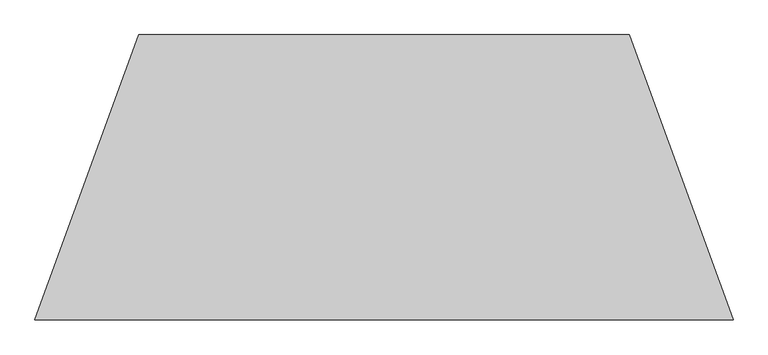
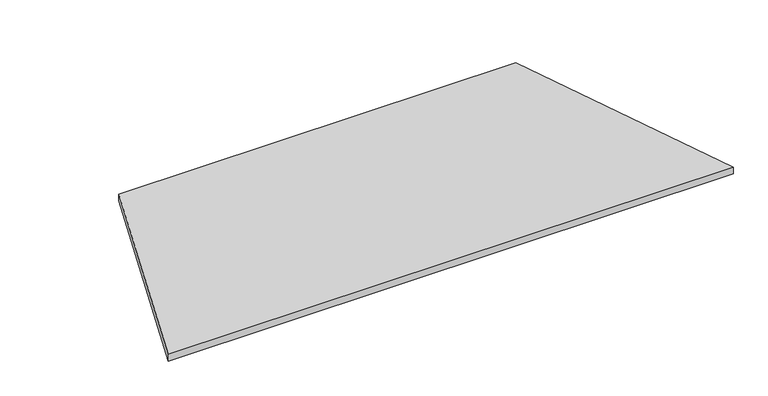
"""IFC4 building model written with IfcOpenShell, lengths in millimetres: proxy geometry, DATUM^OFFICE 2_DESK-ACRYLIC."""

from ifc_helpers import new_model, si_unit, origin, origin_with_axes, place, context, project, spatial, polyline, outline, extrude, source, transform, mapped, element, save


def generic_models_ab67c345(model_context):
    return source(origin(), model_context, "Body", "SweptSolid", [
        extrude(outline(polyline([(1122.1291385, 266.7), (97.0708615, 266.7), (249.6107867, 685.8), (969.5892133, 685.8), (1122.1291385, 266.7)])), origin_with_axes(), (0.0, 0.0, 1.0), 12.7),
    ])


if __name__ == "__main__":
    model = new_model("IFC4")
    model_context = context("Model", 3, world=origin())
    ifc_project = project(units=[si_unit("LENGTHUNIT", "METRE", prefix="MILLI")], contexts=[model_context])
    site = spatial("IfcSite", under=ifc_project)
    building = spatial("IfcBuilding", under=site)
    placement = place(None, origin())
    generic_models_shape = generic_models_ab67c345(model_context)
    element("IfcBuildingElementProxy", 1, Name="DATUM^OFFICE 2_DESK-ACRYLIC", ObjectType="DATUM^OFFICE 2_DESK-ACRYLIC", at=placement, inside=building, context=model_context, shape_type="MappedRepresentation", body=[
        mapped(generic_models_shape, transform((0.0, 0.0, 0.0), x_axis=(1.0, 0.0, 0.0), y_axis=(0.0, 1.0, 0.0), z_axis=(0.0, 0.0, 1.0))),
    ])
    save(model, "model.ifc")
